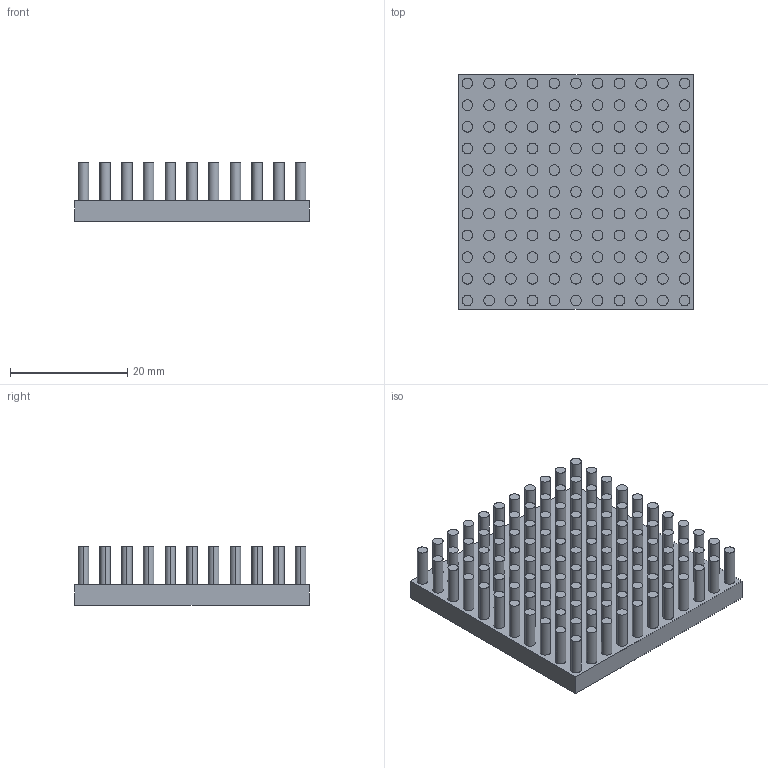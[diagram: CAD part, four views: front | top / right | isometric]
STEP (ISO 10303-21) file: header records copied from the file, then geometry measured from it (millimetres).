
FILE_DESCRIPTION (( 'STEP AP214' ), '1' );
FILE_NAME ('PB40-40-10-AL.STEP', '2014-01-09T13:48:30', ( '' ), ( '' ), 'SwSTEP 2.0', 'SolidWorks 2013', '' );
FILE_SCHEMA (( 'AUTOMOTIVE_DESIGN' ));
Length unit declared in the file: millimetre
Products named in the file (1): PB40-40-10-AL
Bounding box: 40 x 40 x 10 mm (x, y, z)
Volume: 7601.4 mm3; surface area: 8207.6 mm2
Topology: 1 solids, 1 shells, 369 faces, 738 edges, 492 vertices
Faces by surface type: cylinder 242, plane 127
Entity records: 9870 total; most frequent: DIRECTION 1962, CARTESIAN_POINT 1600, ORIENTED_EDGE 1476, AXIS2_PLACEMENT_3D 854, EDGE_CURVE 738, VERTEX_POINT 492, EDGE_LOOP 490, CIRCLE 484
